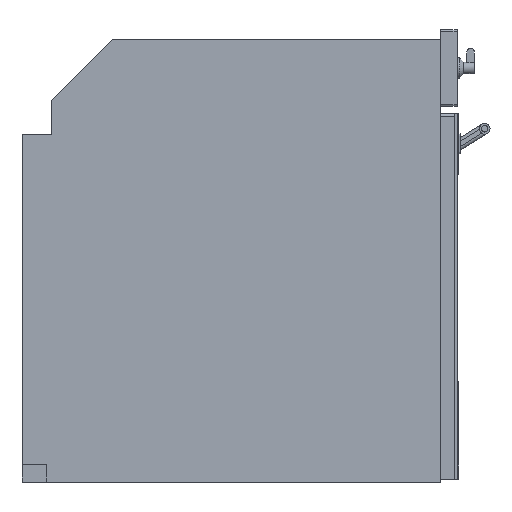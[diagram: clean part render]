
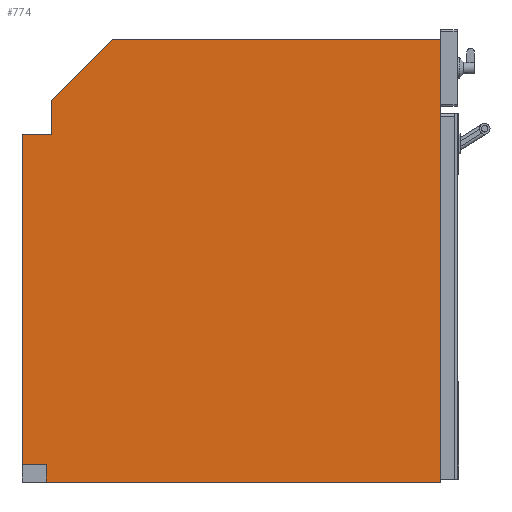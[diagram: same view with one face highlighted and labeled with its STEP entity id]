
A CAD part, front view. The second image highlights one B-rep face of the part: STEP entity #774.
In plain terms, the highlighted planar face has unit normal (0, -1, 0).
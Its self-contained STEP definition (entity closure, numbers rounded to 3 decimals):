
#774=ADVANCED_FACE('',(#1069),#908,.F.);
#908=PLANE('',#3825);
#1069=FACE_OUTER_BOUND('',#1336,.T.);
#1336=EDGE_LOOP('',(#2160,#2161,#2162,#2163,#2164,#2165,#2166,#2167,#2168));
#2160=ORIENTED_EDGE('',*,*,#2911,.F.);
#2161=ORIENTED_EDGE('',*,*,#2905,.F.);
#2162=ORIENTED_EDGE('',*,*,#2934,.F.);
#2163=ORIENTED_EDGE('',*,*,#2929,.F.);
#2164=ORIENTED_EDGE('',*,*,#2926,.F.);
#2165=ORIENTED_EDGE('',*,*,#2923,.F.);
#2166=ORIENTED_EDGE('',*,*,#2920,.F.);
#2167=ORIENTED_EDGE('',*,*,#2917,.F.);
#2168=ORIENTED_EDGE('',*,*,#2914,.F.);
#2487=VERTEX_POINT('',#5971);
#2490=VERTEX_POINT('',#5976);
#2496=VERTEX_POINT('',#5990);
#2498=VERTEX_POINT('',#5996);
#2500=VERTEX_POINT('',#6002);
#2502=VERTEX_POINT('',#6008);
#2504=VERTEX_POINT('',#6014);
#2506=VERTEX_POINT('',#6020);
#2507=VERTEX_POINT('',#6025);
#2905=EDGE_CURVE('',#2490,#2487,#3179,.T.);
#2911=EDGE_CURVE('',#2487,#2496,#3185,.T.);
#2914=EDGE_CURVE('',#2496,#2498,#3188,.T.);
#2917=EDGE_CURVE('',#2498,#2500,#3191,.T.);
#2920=EDGE_CURVE('',#2500,#2502,#3194,.T.);
#2923=EDGE_CURVE('',#2502,#2504,#3197,.T.);
#2926=EDGE_CURVE('',#2504,#2506,#3200,.T.);
#2929=EDGE_CURVE('',#2506,#2507,#3203,.T.);
#2934=EDGE_CURVE('',#2507,#2490,#3208,.T.);
#3179=LINE('',#5977,#3464);
#3185=LINE('',#5989,#3470);
#3188=LINE('',#5995,#3473);
#3191=LINE('',#6001,#3476);
#3194=LINE('',#6007,#3479);
#3197=LINE('',#6013,#3482);
#3200=LINE('',#6019,#3485);
#3203=LINE('',#6024,#3488);
#3208=LINE('',#6032,#3493);
#3464=VECTOR('',#4690,1.);
#3470=VECTOR('',#4698,1.);
#3473=VECTOR('',#4703,1.);
#3476=VECTOR('',#4708,1.);
#3479=VECTOR('',#4713,1.);
#3482=VECTOR('',#4718,1.);
#3485=VECTOR('',#4723,1.);
#3488=VECTOR('',#4728,1.);
#3493=VECTOR('',#4735,1.);
#3825=AXIS2_PLACEMENT_3D('',#6037,#4742,#4743);
#4690=DIRECTION('',(-1.,0.,0.));
#4698=DIRECTION('',(0.,0.,1.));
#4703=DIRECTION('',(1.,0.,0.));
#4708=DIRECTION('',(0.,0.,1.));
#4713=DIRECTION('',(0.707,0.,0.707));
#4718=DIRECTION('',(1.,0.,0.));
#4723=DIRECTION('',(0.,0.,-1.));
#4728=DIRECTION('',(-1.,0.,0.));
#4735=DIRECTION('',(0.,0.,1.));
#4742=DIRECTION('',(0.,1.,0.));
#4743=DIRECTION('',(0.,0.,1.));
#5971=CARTESIAN_POINT('',(0.,0.,23.));
#5976=CARTESIAN_POINT('',(32.,0.,23.));
#5977=CARTESIAN_POINT('',(32.,0.,23.));
#5989=CARTESIAN_POINT('',(0.,0.,23.));
#5990=CARTESIAN_POINT('',(0.,0.,455.));
#5995=CARTESIAN_POINT('',(0.,0.,455.));
#5996=CARTESIAN_POINT('',(38.,0.,455.));
#6001=CARTESIAN_POINT('',(38.,0.,455.));
#6002=CARTESIAN_POINT('',(38.,0.,500.));
#6007=CARTESIAN_POINT('',(38.,0.,500.));
#6008=CARTESIAN_POINT('',(118.,0.,580.));
#6013=CARTESIAN_POINT('',(118.,0.,580.));
#6014=CARTESIAN_POINT('',(548.,0.,580.));
#6019=CARTESIAN_POINT('',(548.,0.,580.));
#6020=CARTESIAN_POINT('',(548.,0.,0.));
#6024=CARTESIAN_POINT('',(548.,0.,0.));
#6025=CARTESIAN_POINT('',(32.,0.,0.));
#6032=CARTESIAN_POINT('',(32.,0.,0.));
#6037=CARTESIAN_POINT('',(0.,0.,0.));
